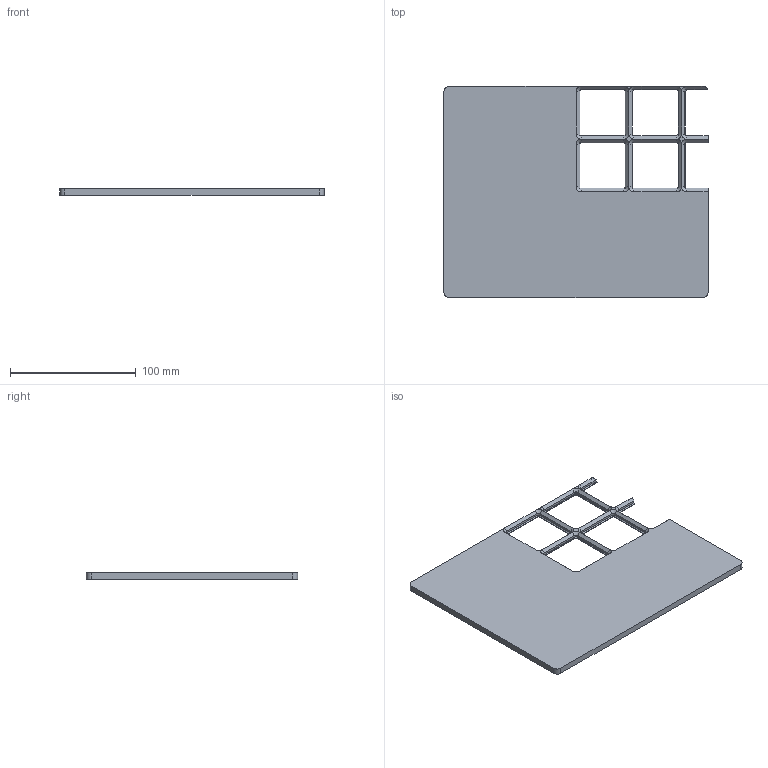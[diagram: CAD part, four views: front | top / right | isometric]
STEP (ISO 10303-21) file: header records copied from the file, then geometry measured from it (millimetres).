
FILE_DESCRIPTION(('Open CASCADE Model'),'2;1');
FILE_NAME('Open CASCADE Shape Model','2026-11-03T17:09:25',('Author'),( 'Open CASCADE'),'Open CASCADE STEP processor 8.0','build123d', 'Unknown');
FILE_SCHEMA(('AUTOMOTIVE_DESIGN { 1 0 10303 214 1 1 1 1 }'));
Length unit declared in the file: millimetre
Products named in the file (1): COMPOUND
Bounding box: 210 x 168 x 5 mm (x, y, z)
Volume: 139475.3 mm3; surface area: 63202.5 mm2
Topology: 1 solids, 1 shells, 183 faces, 404 edges, 219 vertices
Faces by surface type: plane 99, cylinder 44, cone 40
Entity records: 9878 total; most frequent: CARTESIAN_POINT 2117, DIRECTION 1332, ORIENTED_EDGE 808, PCURVE 808, DEFINITIONAL_REPRESENTATION 808, LINE 724, VECTOR 724, EDGE_CURVE 404
